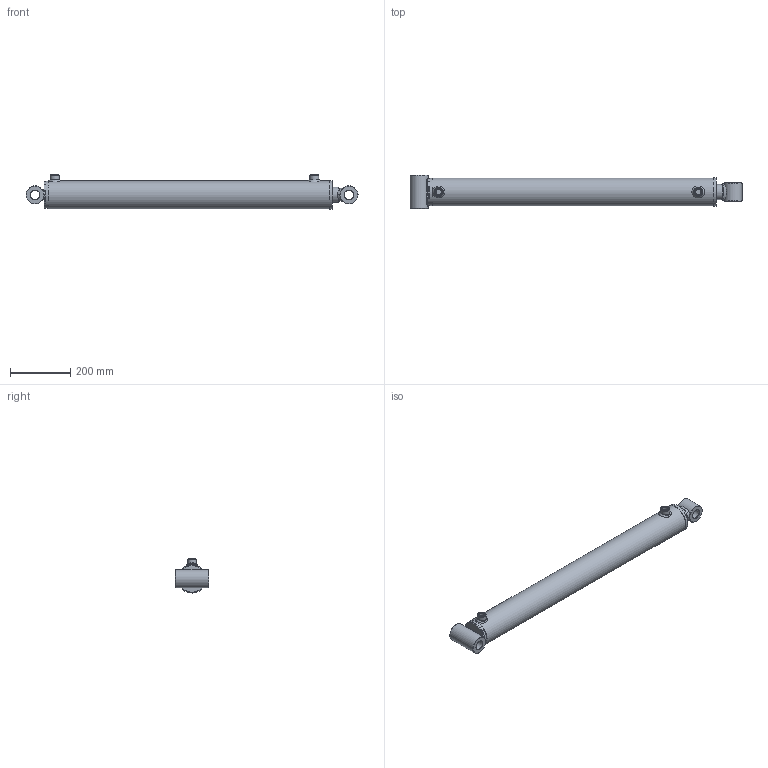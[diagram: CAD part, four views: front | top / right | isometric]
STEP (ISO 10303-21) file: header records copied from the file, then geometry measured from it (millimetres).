
FILE_DESCRIPTION( ( 'Unknown' ), '1' );
FILE_NAME( 'E:/LIBRERIA_3d/CILINDRI/HM2/hm25500800.stp', 'Unknown', ( 'Unknown' ), ( 'Unknown' ), 'PSStep 17.0.49', 'Unknown', ' ' );
FILE_SCHEMA( ( 'AUTOMOTIVE_DESIGN { 1 0 10303 214 1 1 1 1 }' ) );
Length unit declared in the file: millimetre
Products named in the file (25): CG09508050; CT00080027; STL5600800-oa4; Saldatura d'angolo 1-oa2; CBS0800000; FTM5600800-oa3; HM05500800; Saldatura con preparazione 1-oa0; Saldatura d'angolo 1-oa1; CF00080090; CDA0002720; APG0800000; SBL5050800; Assem1; CB30060060; CB30060110; Saldatura d'angolo 1-oa5; Saldatura d'angolo 2-oa6
Assembly tree (18 placements, depth 4):
  Saldatura d'angolo 1-oa2
  Saldatura d'angolo 1-oa2
  Saldatura d'angolo 1-oa1
  Saldatura d'angolo 1-oa1
  Assem1
    CB30060060
    CB30060110
    HM05500800
      Saldatura con preparazione 1-oa0
      Saldatura con preparazione 1-oa0
      CF00080090
      CBS0800000
      CDA0002720
      APG0800000  x2
      SBL5050800
      CT00080027
        CT00080027
      CG09508050
        CG09508050
      STL5600800-oa4
        CBS0800000
        FTM5600800-oa3
Bounding box: 1100 x 110 x 113 mm (x, y, z)
Volume: 4134275.1 mm3; surface area: 846323.9 mm2
Topology: 22 solids, 22 shells, 296 faces, 608 edges, 363 vertices
Faces by surface type: bspline 84, plane 76, cylinder 60, cone 40, torus 36
Full cylindrical faces by diameter (mm): 4.25 x1, 8 x2, 12 x1, 18.631 x2, 19.5 x2, 20.95 x2, 26 x2, 26.4 x1, 27 x5, 30 x2, 30.25 x2, 33.2 x1, 41 x1, 50 x5, 53 x3, 58.6 x1, 60 x4, 74.16 x2, 75 x1, 78.34 x2, 79.9 x1, 80 x1, 80.3 x1, 80.5 x1, 80.6 x1, 81 x1, 82 x3, 82.835 x1, 85 x1, 90 x3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
Entity records: 18679 total; most frequent: CARTESIAN_POINT 11383, DIRECTION 846, ORIENTED_EDGE 820, EDGE_LOOP 463, EDGE_CURVE 410, AXIS2_PLACEMENT_3D 404, FACE_OUTER_BOUND 384, VERTEX_POINT 312
